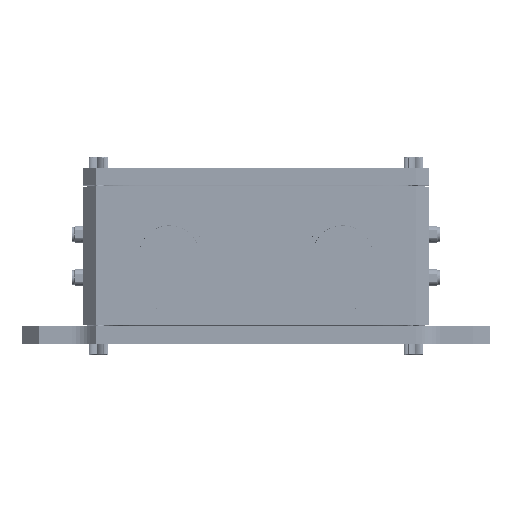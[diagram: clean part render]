
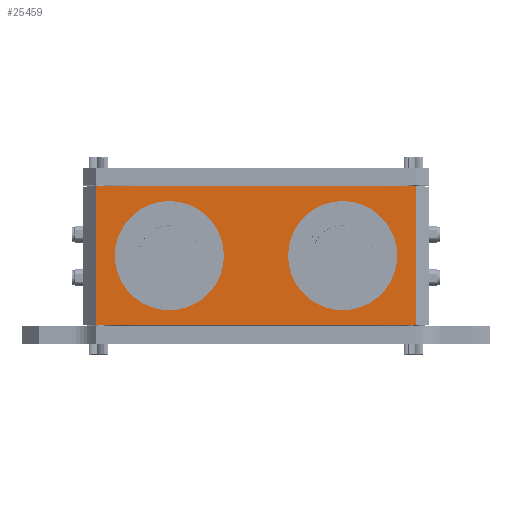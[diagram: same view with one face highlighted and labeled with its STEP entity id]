
A CAD part, top view. The second image highlights one B-rep face of the part: STEP entity #25459.
In plain terms, the highlighted planar face has unit normal (0, 0, 1).
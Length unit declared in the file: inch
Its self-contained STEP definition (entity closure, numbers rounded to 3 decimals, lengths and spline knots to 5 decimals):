
#609 = FACE_BOUND ( 'NONE', #35364, .T. ) ;
#1398 = EDGE_CURVE ( 'NONE', #29538, #18386, #28139, .T. ) ;
#1656 = VERTEX_POINT ( 'NONE', #3207 ) ;
#1802 = VERTEX_POINT ( 'NONE', #33533 ) ;
#2382 = AXIS2_PLACEMENT_3D ( 'NONE', #24077, #36761, #37188 ) ;
#3207 = CARTESIAN_POINT ( 'NONE',  ( 2.3125, -1., 1.5 ) ) ;
#3625 = ORIENTED_EDGE ( 'NONE', *, *, #26678, .F. ) ;
#3736 = DIRECTION ( 'NONE',  ( 0., 0., 1. ) ) ;
#5939 = ORIENTED_EDGE ( 'NONE', *, *, #18263, .T. ) ;
#7091 = VECTOR ( 'NONE', #41355, 39.37008 ) ;
#7916 = CARTESIAN_POINT ( 'NONE',  ( -1.25, 0., 1.5 ) ) ;
#8480 = DIRECTION ( 'NONE',  ( 1., 0., 0. ) ) ;
#9478 = ORIENTED_EDGE ( 'NONE', *, *, #22123, .T. ) ;
#10827 = EDGE_CURVE ( 'NONE', #16407, #1802, #36188, .T. ) ;
#11636 = AXIS2_PLACEMENT_3D ( 'NONE', #16437, #3736, #17078 ) ;
#11700 = DIRECTION ( 'NONE',  ( 0., 0., 1. ) ) ;
#11940 = EDGE_CURVE ( 'NONE', #31901, #29998, #21242, .T. ) ;
#12962 = CARTESIAN_POINT ( 'NONE',  ( -2.5, 1., 1.5 ) ) ;
#13729 = DIRECTION ( 'NONE',  ( -1., 0., 0. ) ) ;
#13940 = AXIS2_PLACEMENT_3D ( 'NONE', #26863, #23419, #13729 ) ;
#14578 = DIRECTION ( 'NONE',  ( 1., 0., 0. ) ) ;
#16407 = VERTEX_POINT ( 'NONE', #41449 ) ;
#16437 = CARTESIAN_POINT ( 'NONE',  ( 1.25, 0., 1.5 ) ) ;
#16616 = CARTESIAN_POINT ( 'NONE',  ( -0.63071, 0., 1.5 ) ) ;
#17078 = DIRECTION ( 'NONE',  ( 1., 0., 0. ) ) ;
#17180 = PLANE ( 'NONE',  #13940 ) ;
#17294 = CARTESIAN_POINT ( 'NONE',  ( -2.5, -1., 1.5 ) ) ;
#17953 = EDGE_LOOP ( 'NONE', ( #34026, #20204 ) ) ;
#18235 = CARTESIAN_POINT ( 'NONE',  ( 1.86929, 0., 1.5 ) ) ;
#18263 = EDGE_CURVE ( 'NONE', #28677, #1656, #21373, .T. ) ;
#18386 = VERTEX_POINT ( 'NONE', #35122 ) ;
#19418 = DIRECTION ( 'NONE',  ( 1., 0., 0. ) ) ;
#19493 = EDGE_CURVE ( 'NONE', #18386, #29538, #42499, .T. ) ;
#19846 = AXIS2_PLACEMENT_3D ( 'NONE', #7916, #36505, #14578 ) ;
#19847 = AXIS2_PLACEMENT_3D ( 'NONE', #24834, #11700, #8480 ) ;
#19965 = FACE_BOUND ( 'NONE', #17953, .T. ) ;
#20204 = ORIENTED_EDGE ( 'NONE', *, *, #19493, .F. ) ;
#20523 = DIRECTION ( 'NONE',  ( 1., 0., 0. ) ) ;
#20924 = CIRCLE ( 'NONE', #2382, 0.61929 ) ;
#21242 = CIRCLE ( 'NONE', #19846, 0.61929 ) ;
#21365 = CARTESIAN_POINT ( 'NONE',  ( 2.3125, 1., 1.5 ) ) ;
#21373 = LINE ( 'NONE', #17294, #27825 ) ;
#22123 = EDGE_CURVE ( 'NONE', #16407, #28677, #28395, .T. ) ;
#22724 = CARTESIAN_POINT ( 'NONE',  ( -2.3125, 1., 1.5 ) ) ;
#23419 = DIRECTION ( 'NONE',  ( 0., 0., -1. ) ) ;
#24077 = CARTESIAN_POINT ( 'NONE',  ( -1.25, 0., 1.5 ) ) ;
#24834 = CARTESIAN_POINT ( 'NONE',  ( 1.25, 0., 1.5 ) ) ;
#25437 = ORIENTED_EDGE ( 'NONE', *, *, #11940, .F. ) ;
#25459 = ADVANCED_FACE ( 'NONE', ( #609, #19965, #33940 ), #17180, .F. ) ;
#25509 = LINE ( 'NONE', #21365, #7091 ) ;
#25657 = EDGE_LOOP ( 'NONE', ( #5939, #27363, #33229, #9478 ) ) ;
#26678 = EDGE_CURVE ( 'NONE', #29998, #31901, #20924, .T. ) ;
#26853 = CARTESIAN_POINT ( 'NONE',  ( -1.86929, 0., 1.5 ) ) ;
#26863 = CARTESIAN_POINT ( 'NONE',  ( -2.5, 1., 1.5 ) ) ;
#27363 = ORIENTED_EDGE ( 'NONE', *, *, #42318, .T. ) ;
#27825 = VECTOR ( 'NONE', #20523, 39.37008 ) ;
#28139 = CIRCLE ( 'NONE', #11636, 0.61929 ) ;
#28395 = LINE ( 'NONE', #22724, #35614 ) ;
#28677 = VERTEX_POINT ( 'NONE', #40480 ) ;
#29538 = VERTEX_POINT ( 'NONE', #18235 ) ;
#29998 = VERTEX_POINT ( 'NONE', #16616 ) ;
#31901 = VERTEX_POINT ( 'NONE', #26853 ) ;
#32641 = VECTOR ( 'NONE', #19418, 39.37008 ) ;
#33229 = ORIENTED_EDGE ( 'NONE', *, *, #10827, .F. ) ;
#33533 = CARTESIAN_POINT ( 'NONE',  ( 2.3125, 1., 1.5 ) ) ;
#33940 = FACE_OUTER_BOUND ( 'NONE', #25657, .T. ) ;
#34026 = ORIENTED_EDGE ( 'NONE', *, *, #1398, .F. ) ;
#35122 = CARTESIAN_POINT ( 'NONE',  ( 0.63071, 0., 1.5 ) ) ;
#35364 = EDGE_LOOP ( 'NONE', ( #3625, #25437 ) ) ;
#35614 = VECTOR ( 'NONE', #39281, 39.37008 ) ;
#36188 = LINE ( 'NONE', #12962, #32641 ) ;
#36505 = DIRECTION ( 'NONE',  ( 0., 0., 1. ) ) ;
#36761 = DIRECTION ( 'NONE',  ( 0., 0., 1. ) ) ;
#37188 = DIRECTION ( 'NONE',  ( 1., 0., 0. ) ) ;
#39281 = DIRECTION ( 'NONE',  ( 0., -1., 0. ) ) ;
#40480 = CARTESIAN_POINT ( 'NONE',  ( -2.3125, -1., 1.5 ) ) ;
#41355 = DIRECTION ( 'NONE',  ( 0., 1., 0. ) ) ;
#41449 = CARTESIAN_POINT ( 'NONE',  ( -2.3125, 1., 1.5 ) ) ;
#42318 = EDGE_CURVE ( 'NONE', #1656, #1802, #25509, .T. ) ;
#42499 = CIRCLE ( 'NONE', #19847, 0.61929 ) ;
